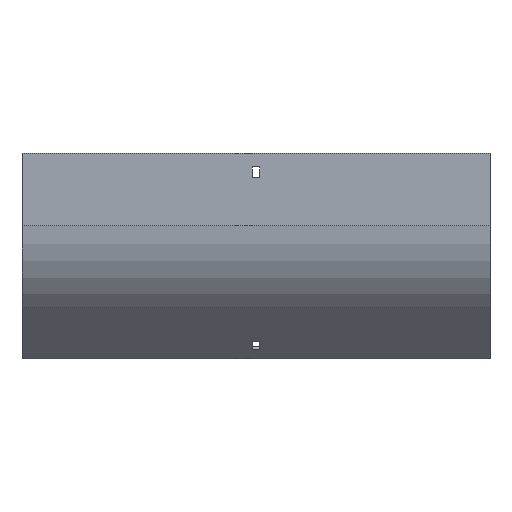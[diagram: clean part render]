
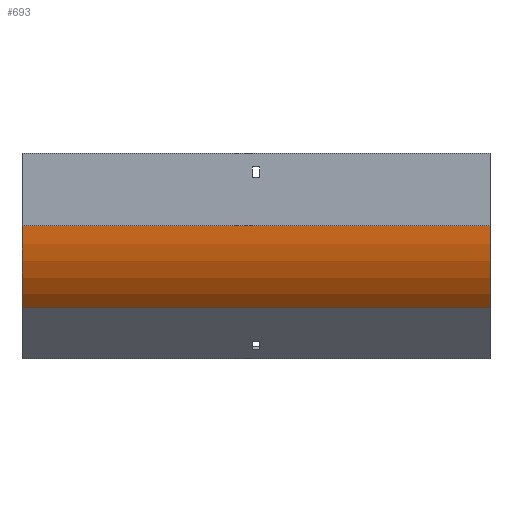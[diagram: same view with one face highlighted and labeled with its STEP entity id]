
A CAD part, front view. The second image highlights one B-rep face of the part: STEP entity #693.
In plain terms, the highlighted cylindrical face has radius 100 mm (diameter 200 mm), a partial arc.
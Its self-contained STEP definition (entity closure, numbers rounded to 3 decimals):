
#100 = DIRECTION ( 'NONE',  ( 0., 0., 1. ) ) ;
#108 = CARTESIAN_POINT ( 'NONE',  ( 202., -49.711, -133.434 ) ) ;
#147 = EDGE_LOOP ( 'NONE', ( #399, #1578, #572, #288 ) ) ;
#201 = DIRECTION ( 'NONE',  ( 1., 0., 0. ) ) ;
#263 = CIRCLE ( 'NONE', #574, 100. ) ;
#288 = ORIENTED_EDGE ( 'NONE', *, *, #1501, .T. ) ;
#296 = LINE ( 'NONE', #1787, #1045 ) ;
#309 = DIRECTION ( 'NONE',  ( -1., 0., 0. ) ) ;
#343 = CARTESIAN_POINT ( 'NONE',  ( -202., -79., -62.723 ) ) ;
#399 = ORIENTED_EDGE ( 'NONE', *, *, #1468, .T. ) ;
#436 = FACE_OUTER_BOUND ( 'NONE', #147, .T. ) ;
#497 = VERTEX_POINT ( 'NONE', #343 ) ;
#572 = ORIENTED_EDGE ( 'NONE', *, *, #1161, .F. ) ;
#574 = AXIS2_PLACEMENT_3D ( 'NONE', #879, #1044, #1799 ) ;
#586 = CARTESIAN_POINT ( 'NONE',  ( 202., 21., -62.723 ) ) ;
#598 = DIRECTION ( 'NONE',  ( -1., 0., 0. ) ) ;
#693 = ADVANCED_FACE ( 'NONE', ( #436 ), #1040, .T. ) ;
#694 = CARTESIAN_POINT ( 'NONE',  ( 202., -49.711, -133.434 ) ) ;
#711 = DIRECTION ( 'NONE',  ( -1., 0., 0. ) ) ;
#853 = VERTEX_POINT ( 'NONE', #1083 ) ;
#879 = CARTESIAN_POINT ( 'NONE',  ( -202., 21., -62.723 ) ) ;
#909 = VERTEX_POINT ( 'NONE', #1372 ) ;
#929 = DIRECTION ( 'NONE',  ( 0., 0., 1. ) ) ;
#1028 = CIRCLE ( 'NONE', #1791, 100. ) ;
#1040 = CYLINDRICAL_SURFACE ( 'NONE', #1167, 100. ) ;
#1044 = DIRECTION ( 'NONE',  ( 1., 0., 0. ) ) ;
#1045 = VECTOR ( 'NONE', #711, 1000. ) ;
#1083 = CARTESIAN_POINT ( 'NONE',  ( -202., -49.711, -133.434 ) ) ;
#1161 = EDGE_CURVE ( 'NONE', #909, #1313, #1028, .T. ) ;
#1167 = AXIS2_PLACEMENT_3D ( 'NONE', #586, #309, #100 ) ;
#1313 = VERTEX_POINT ( 'NONE', #694 ) ;
#1372 = CARTESIAN_POINT ( 'NONE',  ( 202., -79., -62.723 ) ) ;
#1468 = EDGE_CURVE ( 'NONE', #497, #853, #263, .T. ) ;
#1496 = LINE ( 'NONE', #108, #1681 ) ;
#1501 = EDGE_CURVE ( 'NONE', #909, #497, #296, .T. ) ;
#1553 = CARTESIAN_POINT ( 'NONE',  ( 202., 21., -62.723 ) ) ;
#1578 = ORIENTED_EDGE ( 'NONE', *, *, #1885, .F. ) ;
#1681 = VECTOR ( 'NONE', #598, 1000. ) ;
#1787 = CARTESIAN_POINT ( 'NONE',  ( 202., -79., -62.723 ) ) ;
#1791 = AXIS2_PLACEMENT_3D ( 'NONE', #1553, #201, #929 ) ;
#1799 = DIRECTION ( 'NONE',  ( 0., 0., 1. ) ) ;
#1885 = EDGE_CURVE ( 'NONE', #1313, #853, #1496, .T. ) ;
